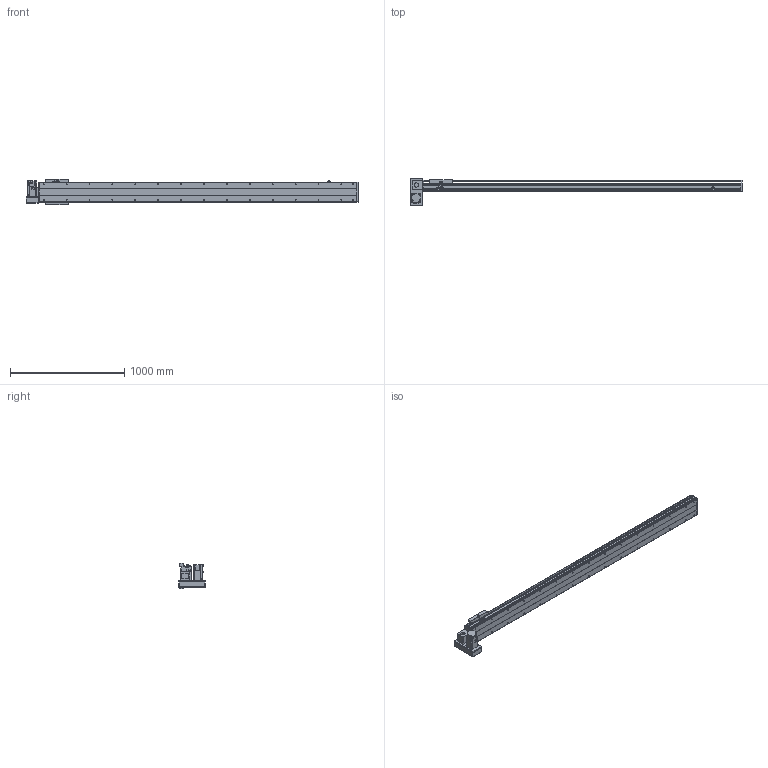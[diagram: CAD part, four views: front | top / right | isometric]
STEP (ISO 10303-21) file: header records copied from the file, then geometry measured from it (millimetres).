
FILE_DESCRIPTION(/* description */ ('STEP AP214'),/* implementation_level */ '2;1');
FILE_NAME(/* name */ 'PBS200-P40-S2400-LD-T75-C1-N(0)',/* time_stamp */ '2022-06-11T08:46:21+02:00',/* author */ ('License CC BY-ND 4.0'),/* organization */ ('CADENAS'),/* preprocessor_version */ 'ST-DEVELOPER v18.102',/* originating_system */ 'PARTsolutions',/* authorisation */ ' ');
FILE_SCHEMA (('AUTOMOTIVE_DESIGN {1 0 10303 214 3 1 1}'));
Length unit declared in the file: millimetre
Products named in the file (7): PBS200-P40-S2400-LD-T75-C1-N(0); PBS200_sensor; PBS200_plant; PBS200_sliser; T75-p1; PBS200T-LD_motors; PBS200-S2400()_body
Assembly tree (8 placements, depth 2):
  PBS200-P40-S2400-LD-T75-C1-N(0)
    PBS200_sensor  x3
    PBS200_plant
    PBS200_sliser
    T75-p1
    PBS200T-LD_motors
    PBS200-S2400()_body
Bounding box: 2900 x 230 x 221 mm (x, y, z)
Volume: 19979343 mm3; surface area: 3197974.6 mm2
Topology: 8 solids, 8 shells, 962 faces, 2444 edges, 1590 vertices
Faces by surface type: plane 588, cylinder 312, cone 62
Full cylindrical faces by diameter (mm): 2.459 x6, 3.242 x4, 4.5 x6, 4.917 x4, 5 x6, 6 x7, 6.6 x8, 6.647 x34, 8 x6, 10 x4, 12 x8, 38 x2, 40 x1, 70 x1
Entity records: 25421 total; most frequent: DIRECTION 4495, CARTESIAN_POINT 4318, ORIENTED_EDGE 4066, EDGE_CURVE 2033, AXIS2_PLACEMENT_3D 1591, VERTEX_POINT 1414, LINE 1313, VECTOR 1313
